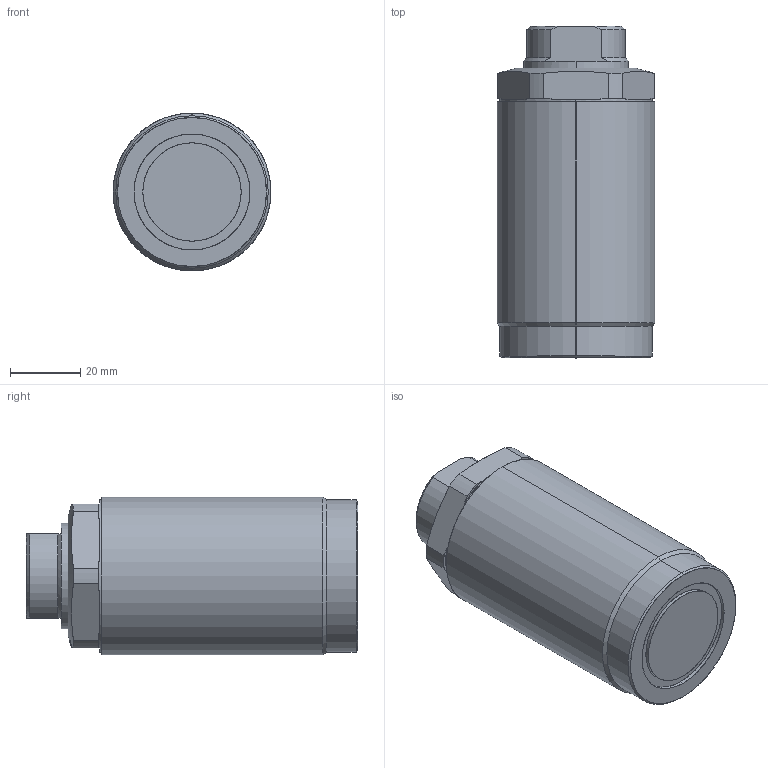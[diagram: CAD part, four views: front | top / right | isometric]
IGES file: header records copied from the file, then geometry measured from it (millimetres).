
Start section: SolidWorks IGES file using analytic representation for surfaces
Global section: file name: D:\karuppas\Clasp\3D model\Thread body cylinder\T03C-M455-L threaded pusher\T03C-M455-L threaded pusher.IGS; native system: SolidWorks 2017; preprocessor: SolidWorks 2017; author: pc; date: 220709.231327; units: millimetre
Bounding box: 45 x 94.5 x 45 mm (x, y, z)
Surface area: 20602.3 mm2 (no closed solid volume)
Topology: 0 solids, 0 shells, 255 faces, 3307 edges, 3305 vertices
Faces by surface type: bspline 219, revolution 36
